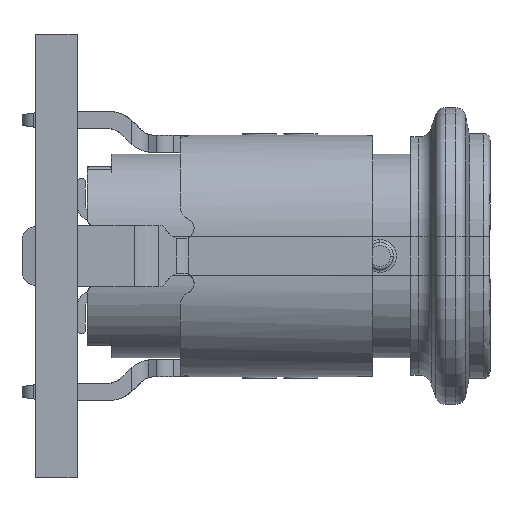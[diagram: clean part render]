
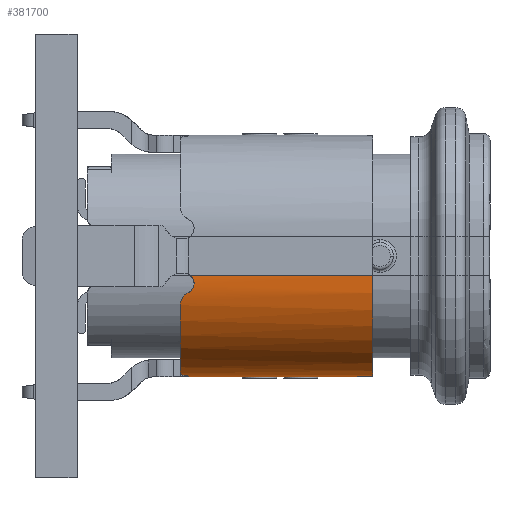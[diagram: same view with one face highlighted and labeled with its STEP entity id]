
A CAD part, left-side view. The second image highlights one B-rep face of the part: STEP entity #381700.
In plain terms, the highlighted cylindrical face has radius 1.475 mm (diameter 2.95 mm), a partial arc.
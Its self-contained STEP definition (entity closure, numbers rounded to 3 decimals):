
#348480=CARTESIAN_POINT('',(-3.165,-1.755,
-2.3));
#348490=VERTEX_POINT('',#348480);
#348520=CARTESIAN_POINT('',(-3.165,-0.28,
-2.3));
#348530=DIRECTION('',(0.,0.,-1.));
#348540=DIRECTION('',(0.,-1.,0.));
#348550=AXIS2_PLACEMENT_3D('',#348520,#348530,#348540);
#348560=CIRCLE('',#348550,1.475);
#348570=CARTESIAN_POINT('',(-4.64,-0.28,
-2.3));
#348580=VERTEX_POINT('',#348570);
#348590=EDGE_CURVE('',#348490,#348580,#348560,.T.);
#354860=CARTESIAN_POINT('',(-3.17,-1.755,
-5.2));
#354870=VERTEX_POINT('',#354860);
#354900=CARTESIAN_POINT('',(-3.165,-1.755,
-5.2));
#354910=CARTESIAN_POINT('',(-3.166,-1.755,
-5.2));
#354920=CARTESIAN_POINT('',(-3.167,-1.755,
-5.2));
#354930=CARTESIAN_POINT('',(-3.169,-1.755,
-5.2));
#354940=CARTESIAN_POINT('',(-3.17,-1.755,
-5.2));
#354950=CARTESIAN_POINT('',(-3.17,-1.755,
-5.2));
#354960=B_SPLINE_CURVE_WITH_KNOTS('',3,(#354900,#354910,#354920,#354930,
#354940,#354950),.UNSPECIFIED.,.F.,.F.,(4,1,1,4),(0.,0.333,
0.667,1.),.UNSPECIFIED.);
#354970=CARTESIAN_POINT('',(-3.165,-1.755,
-5.2));
#354980=VERTEX_POINT('',#354970);
#354990=EDGE_CURVE('',#354980,#354870,#354960,.T.);
#355010=CARTESIAN_POINT('',(-3.165,-1.755,
-2.3));
#355020=DIRECTION('',(0.,0.,-1.));
#355030=VECTOR('',#355020,2.9);
#355040=LINE('',#355010,#355030);
#355050=EDGE_CURVE('',#348490,#354980,#355040,.T.);
#356360=CARTESIAN_POINT('',(-4.64,-0.28,
-4.96));
#356370=DIRECTION('',(0.,0.,1.));
#356380=VECTOR('',#356370,2.66);
#356390=LINE('',#356360,#356380);
#356400=CARTESIAN_POINT('',(-4.64,-0.28,
-4.96));
#356410=VERTEX_POINT('',#356400);
#356420=EDGE_CURVE('',#356410,#348580,#356390,.T.);
#360050=CARTESIAN_POINT('',(-4.618,-0.535,
-4.986));
#360060=CARTESIAN_POINT('',(-4.619,-0.529,
-4.972));
#360070=CARTESIAN_POINT('',(-4.622,-0.512,
-4.947));
#360080=CARTESIAN_POINT('',(-4.627,-0.477,
-4.919));
#360090=CARTESIAN_POINT('',(-4.632,-0.436,
-4.902));
#360100=CARTESIAN_POINT('',(-4.636,-0.391,
-4.898));
#360110=CARTESIAN_POINT('',(-4.639,-0.349,
-4.907));
#360120=CARTESIAN_POINT('',(-4.64,-0.309,
-4.928));
#360130=CARTESIAN_POINT('',(-4.64,-0.289,
-4.948));
#360140=CARTESIAN_POINT('',(-4.64,-0.28,
-4.96));
#360150=B_SPLINE_CURVE_WITH_KNOTS('',3,(#360050,#360060,#360070,#360080,
#360090,#360100,#360110,#360120,#360130,#360140),.UNSPECIFIED.,.F.,.F.,(
4,1,1,1,1,1,1,4),(0.,0.143,0.286,0.429,
0.571,0.714,0.857,1.),.UNSPECIFIED.);
#360160=CARTESIAN_POINT('',(-4.618,-0.535,
-4.986));
#360170=VERTEX_POINT('',#360160);
#360180=EDGE_CURVE('',#360170,#356410,#360150,.T.);
#361640=CARTESIAN_POINT('',(-3.17,-1.755,
-5.2));
#361650=CARTESIAN_POINT('',(-3.17,-1.755,
-5.2));
#361660=CARTESIAN_POINT('',(-3.17,-1.755,
-5.199));
#361670=CARTESIAN_POINT('',(-3.17,-1.755,
-5.198));
#361680=CARTESIAN_POINT('',(-3.17,-1.755,
-5.197));
#361690=CARTESIAN_POINT('',(-3.17,-1.755,
-5.197));
#361700=B_SPLINE_CURVE_WITH_KNOTS('',3,(#361640,#361650,#361660,#361670,
#361680,#361690),.UNSPECIFIED.,.F.,.F.,(4,1,1,4),(0.,0.333,
0.667,1.),.UNSPECIFIED.);
#361710=CARTESIAN_POINT('',(-3.17,-1.755,
-5.197));
#361720=VERTEX_POINT('',#361710);
#361730=EDGE_CURVE('',#354870,#361720,#361700,.T.);
#362110=CARTESIAN_POINT('',(-3.17,-1.755,
-5.1));
#362120=VERTEX_POINT('',#362110);
#362150=CARTESIAN_POINT('',(-3.17,-1.755,
-5.197));
#362160=DIRECTION('',(0.,0.,1.));
#362170=VECTOR('',#362160,0.097);
#362180=LINE('',#362150,#362170);
#362190=EDGE_CURVE('',#361720,#362120,#362180,.T.);
#362300=CARTESIAN_POINT('',(-3.17,-1.755,
-5.1));
#362310=CARTESIAN_POINT('',(-3.17,-1.755,
-5.087));
#362320=CARTESIAN_POINT('',(-3.174,-1.755,
-5.061));
#362330=CARTESIAN_POINT('',(-3.192,-1.755,
-5.026));
#362340=CARTESIAN_POINT('',(-3.22,-1.754,
-4.998));
#362350=CARTESIAN_POINT('',(-3.254,-1.752,
-4.98));
#362360=CARTESIAN_POINT('',(-3.292,-1.75,
-4.973));
#362370=CARTESIAN_POINT('',(-3.331,-1.746,
-4.978));
#362380=CARTESIAN_POINT('',(-3.367,-1.741,
-4.995));
#362390=CARTESIAN_POINT('',(-3.385,-1.738,
-5.012));
#362400=CARTESIAN_POINT('',(-3.394,-1.737,
-5.023));
#362410=B_SPLINE_CURVE_WITH_KNOTS('',3,(#362300,#362310,#362320,#362330,
#362340,#362350,#362360,#362370,#362380,#362390,#362400),.UNSPECIFIED.,
.F.,.F.,(4,1,1,1,1,1,1,1,4),(0.,0.125,0.25,0.375,0.5,0.625,0.75,0.875,1.
),.UNSPECIFIED.);
#362420=CARTESIAN_POINT('',(-3.394,-1.737,
-5.023));
#362430=VERTEX_POINT('',#362420);
#362440=EDGE_CURVE('',#362120,#362430,#362410,.T.);
#363290=CARTESIAN_POINT('',(-3.551,-1.703,
-5.1));
#363300=VERTEX_POINT('',#363290);
#363330=CARTESIAN_POINT('',(-3.394,-1.737,
-5.023));
#363340=CARTESIAN_POINT('',(-3.403,-1.736,
-5.035));
#363350=CARTESIAN_POINT('',(-3.423,-1.732,
-5.056));
#363360=CARTESIAN_POINT('',(-3.463,-1.725,
-5.081));
#363370=CARTESIAN_POINT('',(-3.504,-1.716,
-5.096));
#363380=CARTESIAN_POINT('',(-3.535,-1.708,
-5.1));
#363390=CARTESIAN_POINT('',(-3.551,-1.703,
-5.1));
#363400=B_SPLINE_CURVE_WITH_KNOTS('',3,(#363330,#363340,#363350,#363360,
#363370,#363380,#363390),.UNSPECIFIED.,.F.,.F.,(4,1,1,1,4),(0.,0.25,0.5,
0.75,1.),.UNSPECIFIED.);
#363410=EDGE_CURVE('',#362430,#363300,#363400,.T.);
#363560=CARTESIAN_POINT('',(-4.574,-0.716,
-5.1));
#363570=VERTEX_POINT('',#363560);
#363600=CARTESIAN_POINT('',(-3.165,-0.28,
-5.1));
#363610=DIRECTION('',(0.,0.,1.));
#363620=DIRECTION('',(-0.955,-0.296,
0.));
#363630=AXIS2_PLACEMENT_3D('',#363600,#363610,#363620);
#363640=CIRCLE('',#363630,1.475);
#363650=EDGE_CURVE('',#363570,#363300,#363640,.T.);
#363780=CARTESIAN_POINT('',(-4.574,-0.716,
-5.1));
#363790=CARTESIAN_POINT('',(-4.58,-0.696,
-5.1));
#363800=CARTESIAN_POINT('',(-4.591,-0.659,
-5.094));
#363810=CARTESIAN_POINT('',(-4.604,-0.607,
-5.071));
#363820=CARTESIAN_POINT('',(-4.613,-0.564,
-5.034));
#363830=CARTESIAN_POINT('',(-4.616,-0.544,
-5.003));
#363840=CARTESIAN_POINT('',(-4.618,-0.535,
-4.986));
#363850=B_SPLINE_CURVE_WITH_KNOTS('',3,(#363780,#363790,#363800,#363810,
#363820,#363830,#363840),.UNSPECIFIED.,.F.,.F.,(4,1,1,1,4),(0.,0.25,0.5,
0.75,1.),.UNSPECIFIED.);
#363860=EDGE_CURVE('',#363570,#360170,#363850,.T.);
#381520=CARTESIAN_POINT('',(-3.165,-0.28,
-8.589));
#381530=DIRECTION('',(0.,0.,1.));
#381540=DIRECTION('',(-1.,0.,0.));
#381550=AXIS2_PLACEMENT_3D('',#381520,#381530,#381540);
#381560=CYLINDRICAL_SURFACE('',#381550,1.475);
#381570=ORIENTED_EDGE('',*,*,#355050,.F.);
#381580=ORIENTED_EDGE('',*,*,#354990,.F.);
#381590=ORIENTED_EDGE('',*,*,#361730,.F.);
#381600=ORIENTED_EDGE('',*,*,#362190,.F.);
#381610=ORIENTED_EDGE('',*,*,#362440,.F.);
#381620=ORIENTED_EDGE('',*,*,#363410,.F.);
#381630=ORIENTED_EDGE('',*,*,#363650,.T.);
#381640=ORIENTED_EDGE('',*,*,#363860,.F.);
#381650=ORIENTED_EDGE('',*,*,#360180,.F.);
#381660=ORIENTED_EDGE('',*,*,#356420,.F.);
#381670=ORIENTED_EDGE('',*,*,#348590,.T.);
#381680=EDGE_LOOP('',(#381670,#381660,#381650,#381640,#381630,#381620,
#381610,#381600,#381590,#381580,#381570));
#381690=FACE_OUTER_BOUND('',#381680,.T.);
#381700=ADVANCED_FACE('',(#381690),#381560,.T.);
